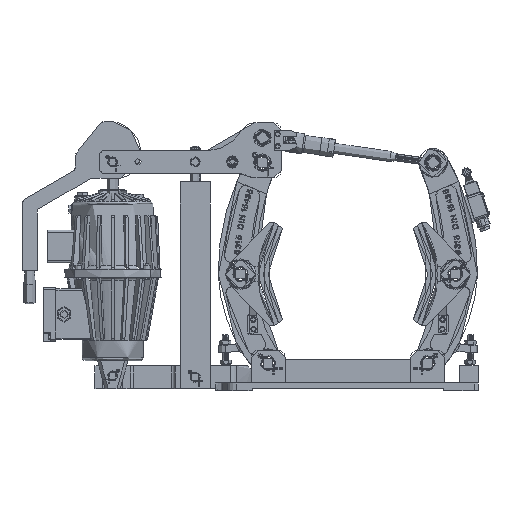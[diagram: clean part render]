
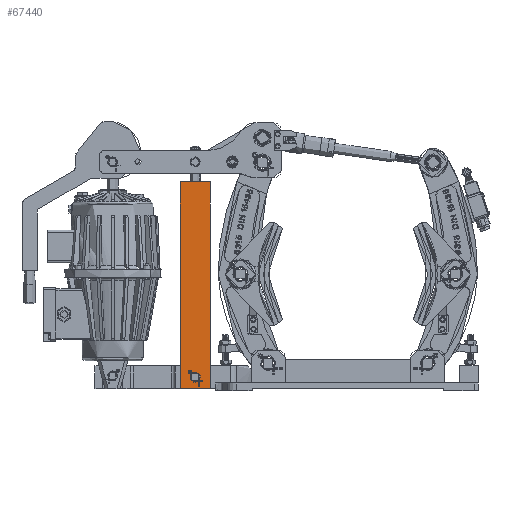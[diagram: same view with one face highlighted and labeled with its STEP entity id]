
A CAD part, left-side view. The second image highlights one B-rep face of the part: STEP entity #67440.
In plain terms, the highlighted planar face has unit normal (-1, 0, 0).
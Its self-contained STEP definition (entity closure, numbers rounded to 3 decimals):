
#67283=DIRECTION('',(0.,-1.,0.));
#67284=VECTOR('',#67283,60.);
#67285=CARTESIAN_POINT('',(-90.,589.,412.));
#67286=LINE('',#67285,#67284);
#67290=DIRECTION('',(0.,0.,-1.));
#67291=VECTOR('',#67290,408.);
#67292=CARTESIAN_POINT('',(-90.,529.,412.));
#67293=LINE('',#67292,#67291);
#67297=DIRECTION('',(0.,1.,0.));
#67298=VECTOR('',#67297,60.);
#67299=CARTESIAN_POINT('',(-90.,529.,4.));
#67300=LINE('',#67299,#67298);
#67304=DIRECTION('',(0.,0.,1.));
#67305=VECTOR('',#67304,408.);
#67306=CARTESIAN_POINT('',(-90.,589.,4.));
#67307=LINE('',#67306,#67305);
#67311=CARTESIAN_POINT('',(-90.,569.,26.5));
#67312=CARTESIAN_POINT('',(-90.,569.,26.172));
#67313=CARTESIAN_POINT('',(-90.,568.968,25.518));
#67314=CARTESIAN_POINT('',(-90.,568.824,24.545));
#67315=CARTESIAN_POINT('',(-90.,568.585,23.592));
#67316=CARTESIAN_POINT('',(-90.,568.254,22.668));
#67317=CARTESIAN_POINT('',(-90.,567.833,21.777));
#67318=CARTESIAN_POINT('',(-90.,567.326,20.932));
#67319=CARTESIAN_POINT('',(-90.,566.739,20.142));
#67320=CARTESIAN_POINT('',(-90.,566.079,19.414));
#67321=CARTESIAN_POINT('',(-90.,565.35,18.754));
#67322=CARTESIAN_POINT('',(-90.,564.561,18.169));
#67323=CARTESIAN_POINT('',(-90.,563.718,17.665));
#67324=CARTESIAN_POINT('',(-90.,562.829,17.245));
#67325=CARTESIAN_POINT('',(-90.,561.907,16.915));
#67326=CARTESIAN_POINT('',(-90.,560.955,16.677));
#67327=CARTESIAN_POINT('',(-90.,559.983,16.532));
#67328=CARTESIAN_POINT('',(-90.,559.329,16.5));
#67329=CARTESIAN_POINT('',(-90.,559.,16.5));
#67334=CARTESIAN_POINT('',(-90.,559.,16.5));
#67335=CARTESIAN_POINT('',(-90.,558.672,16.5));
#67336=CARTESIAN_POINT('',(-90.,558.019,16.532));
#67337=CARTESIAN_POINT('',(-90.,557.045,16.676));
#67338=CARTESIAN_POINT('',(-90.,556.092,16.915));
#67339=CARTESIAN_POINT('',(-90.,555.168,17.246));
#67340=CARTESIAN_POINT('',(-90.,554.277,17.667));
#67341=CARTESIAN_POINT('',(-90.,553.432,18.174));
#67342=CARTESIAN_POINT('',(-90.,552.642,18.761));
#67343=CARTESIAN_POINT('',(-90.,551.914,19.422));
#67344=CARTESIAN_POINT('',(-90.,551.254,20.15));
#67345=CARTESIAN_POINT('',(-90.,550.67,20.939));
#67346=CARTESIAN_POINT('',(-90.,550.165,21.782));
#67347=CARTESIAN_POINT('',(-90.,549.745,22.671));
#67348=CARTESIAN_POINT('',(-90.,549.415,23.593));
#67349=CARTESIAN_POINT('',(-90.,549.177,24.545));
#67350=CARTESIAN_POINT('',(-90.,549.032,25.518));
#67351=CARTESIAN_POINT('',(-90.,549.,26.171));
#67352=CARTESIAN_POINT('',(-90.,549.,26.5));
#67357=CARTESIAN_POINT('',(-90.,549.,26.5));
#67358=CARTESIAN_POINT('',(-90.,549.,26.828));
#67359=CARTESIAN_POINT('',(-90.,549.032,27.482));
#67360=CARTESIAN_POINT('',(-90.,549.177,28.455));
#67361=CARTESIAN_POINT('',(-90.,549.416,29.408));
#67362=CARTESIAN_POINT('',(-90.,549.746,30.332));
#67363=CARTESIAN_POINT('',(-90.,550.168,31.223));
#67364=CARTESIAN_POINT('',(-90.,550.674,32.068));
#67365=CARTESIAN_POINT('',(-90.,551.261,32.858));
#67366=CARTESIAN_POINT('',(-90.,551.922,33.586));
#67367=CARTESIAN_POINT('',(-90.,552.65,34.246));
#67368=CARTESIAN_POINT('',(-90.,553.439,34.831));
#67369=CARTESIAN_POINT('',(-90.,554.282,35.335));
#67370=CARTESIAN_POINT('',(-90.,555.171,35.755));
#67371=CARTESIAN_POINT('',(-90.,556.093,36.085));
#67372=CARTESIAN_POINT('',(-90.,557.045,36.323));
#67373=CARTESIAN_POINT('',(-90.,558.018,36.468));
#67374=CARTESIAN_POINT('',(-90.,558.671,36.5));
#67375=CARTESIAN_POINT('',(-90.,559.,36.5));
#67380=CARTESIAN_POINT('',(-90.,559.,36.5));
#67381=CARTESIAN_POINT('',(-90.,559.329,36.5));
#67382=CARTESIAN_POINT('',(-90.,559.982,36.468));
#67383=CARTESIAN_POINT('',(-90.,560.955,36.324));
#67384=CARTESIAN_POINT('',(-90.,561.908,36.085));
#67385=CARTESIAN_POINT('',(-90.,562.833,35.754));
#67386=CARTESIAN_POINT('',(-90.,563.723,35.333));
#67387=CARTESIAN_POINT('',(-90.,564.568,34.826));
#67388=CARTESIAN_POINT('',(-90.,565.358,34.239));
#67389=CARTESIAN_POINT('',(-90.,566.087,33.578));
#67390=CARTESIAN_POINT('',(-90.,566.746,32.85));
#67391=CARTESIAN_POINT('',(-90.,567.331,32.061));
#67392=CARTESIAN_POINT('',(-90.,567.836,31.218));
#67393=CARTESIAN_POINT('',(-90.,568.255,30.329));
#67394=CARTESIAN_POINT('',(-90.,568.585,29.407));
#67395=CARTESIAN_POINT('',(-90.,568.824,28.455));
#67396=CARTESIAN_POINT('',(-90.,568.968,27.482));
#67397=CARTESIAN_POINT('',(-90.,569.,26.829));
#67398=CARTESIAN_POINT('',(-90.,569.,26.5));
#67403=CARTESIAN_POINT('',(-90.,589.,412.));
#67404=CARTESIAN_POINT('',(-90.,529.,412.));
#67405=VERTEX_POINT('',#67403);
#67406=VERTEX_POINT('',#67404);
#67407=CARTESIAN_POINT('',(-90.,529.,4.));
#67408=VERTEX_POINT('',#67407);
#67409=CARTESIAN_POINT('',(-90.,589.,4.));
#67410=VERTEX_POINT('',#67409);
#67411=VERTEX_POINT('',#67311);
#67412=VERTEX_POINT('',#67329);
#67413=VERTEX_POINT('',#67352);
#67414=VERTEX_POINT('',#67375);
#67415=CARTESIAN_POINT('',(-90.,559.,208.));
#67416=DIRECTION('',(1.,0.,0.));
#67417=DIRECTION('',(0.,0.,-1.));
#67418=AXIS2_PLACEMENT_3D('',#67415,#67416,#67417);
#67419=PLANE('',#67418);
#67421=ORIENTED_EDGE('',*,*,#67420,.T.);
#67423=ORIENTED_EDGE('',*,*,#67422,.T.);
#67425=ORIENTED_EDGE('',*,*,#67424,.T.);
#67427=ORIENTED_EDGE('',*,*,#67426,.T.);
#67428=EDGE_LOOP('',(#67421,#67423,#67425,#67427));
#67429=FACE_OUTER_BOUND('',#67428,.F.);
#67431=ORIENTED_EDGE('',*,*,#67430,.T.);
#67433=ORIENTED_EDGE('',*,*,#67432,.T.);
#67435=ORIENTED_EDGE('',*,*,#67434,.T.);
#67437=ORIENTED_EDGE('',*,*,#67436,.T.);
#67438=EDGE_LOOP('',(#67431,#67433,#67435,#67437));
#67439=FACE_BOUND('',#67438,.F.);
#67440=ADVANCED_FACE('',(#67429,#67439),#67419,.F.);
#67330=B_SPLINE_CURVE_WITH_KNOTS('',3,(#67311,#67312,#67313,#67314,#67315,
#67316,#67317,#67318,#67319,#67320,#67321,#67322,#67323,#67324,#67325,#67326,
#67327,#67328,#67329),.UNSPECIFIED.,.F.,.F.,(4,1,1,1,1,1,1,1,1,1,1,1,1,1,1,1,4),
(0.,0.063,0.125,0.188,0.25,0.313,0.375,0.438,0.5,0.563,
0.625,0.688,0.75,0.813,0.875,0.938,1.),.UNSPECIFIED.);
#67353=B_SPLINE_CURVE_WITH_KNOTS('',3,(#67334,#67335,#67336,#67337,#67338,
#67339,#67340,#67341,#67342,#67343,#67344,#67345,#67346,#67347,#67348,#67349,
#67350,#67351,#67352),.UNSPECIFIED.,.F.,.F.,(4,1,1,1,1,1,1,1,1,1,1,1,1,1,1,1,4),
(0.,0.063,0.125,0.188,0.25,0.313,0.375,0.438,0.5,0.563,
0.625,0.688,0.75,0.813,0.875,0.938,1.),.UNSPECIFIED.);
#67376=B_SPLINE_CURVE_WITH_KNOTS('',3,(#67357,#67358,#67359,#67360,#67361,
#67362,#67363,#67364,#67365,#67366,#67367,#67368,#67369,#67370,#67371,#67372,
#67373,#67374,#67375),.UNSPECIFIED.,.F.,.F.,(4,1,1,1,1,1,1,1,1,1,1,1,1,1,1,1,4),
(0.,0.063,0.125,0.188,0.25,0.313,0.375,0.438,0.5,0.563,
0.625,0.688,0.75,0.813,0.875,0.938,1.),.UNSPECIFIED.);
#67399=B_SPLINE_CURVE_WITH_KNOTS('',3,(#67380,#67381,#67382,#67383,#67384,
#67385,#67386,#67387,#67388,#67389,#67390,#67391,#67392,#67393,#67394,#67395,
#67396,#67397,#67398),.UNSPECIFIED.,.F.,.F.,(4,1,1,1,1,1,1,1,1,1,1,1,1,1,1,1,4),
(0.,0.063,0.125,0.188,0.25,0.313,0.375,0.438,0.5,0.563,
0.625,0.688,0.75,0.813,0.875,0.938,1.),.UNSPECIFIED.);
#67420=EDGE_CURVE('',#67405,#67406,#67286,.T.);
#67422=EDGE_CURVE('',#67406,#67408,#67293,.T.);
#67424=EDGE_CURVE('',#67408,#67410,#67300,.T.);
#67426=EDGE_CURVE('',#67410,#67405,#67307,.T.);
#67430=EDGE_CURVE('',#67411,#67412,#67330,.T.);
#67432=EDGE_CURVE('',#67412,#67413,#67353,.T.);
#67434=EDGE_CURVE('',#67413,#67414,#67376,.T.);
#67436=EDGE_CURVE('',#67414,#67411,#67399,.T.);
